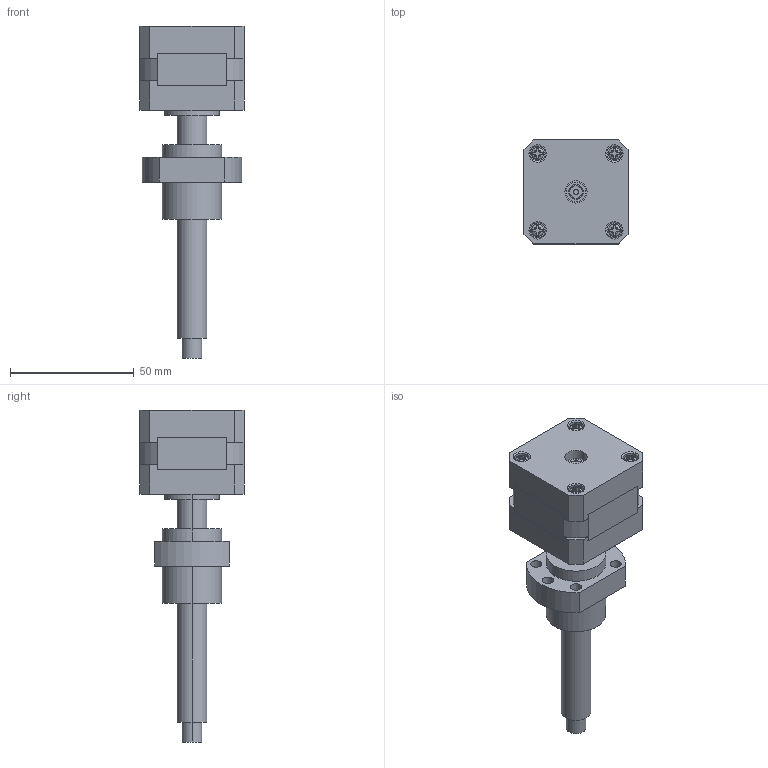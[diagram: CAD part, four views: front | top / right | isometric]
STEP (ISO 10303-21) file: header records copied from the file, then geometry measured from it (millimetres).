
FILE_DESCRIPTION (( 'STEP AP203' ), '1' );
FILE_NAME ('42SE1834-415-BS1205-100-01.STEP', '2022-06-30T12:10:15', ( 'USER-' ), ( 'MS' ), 'SwSTEP 2.0', 'SolidWorks 2018', '' );
FILE_SCHEMA (( 'CONFIG_CONTROL_DESIGN' ));
Length unit declared in the file: millimetre
Products named in the file (1): 42SE1834-415-BS1205-100-01
Bounding box: 42 x 42 x 134 mm (x, y, z)
Volume: 85295.2 mm3; surface area: 27736.1 mm2
Topology: 5 solids, 5 shells, 239 faces, 599 edges, 394 vertices
Faces by surface type: plane 128, cylinder 85, torus 16, cone 10
Entity records: 7436 total; most frequent: CARTESIAN_POINT 1489, DIRECTION 1253, ORIENTED_EDGE 1198, EDGE_CURVE 599, AXIS2_PLACEMENT_3D 470, VERTEX_POINT 394, VECTOR 313, LINE 313
